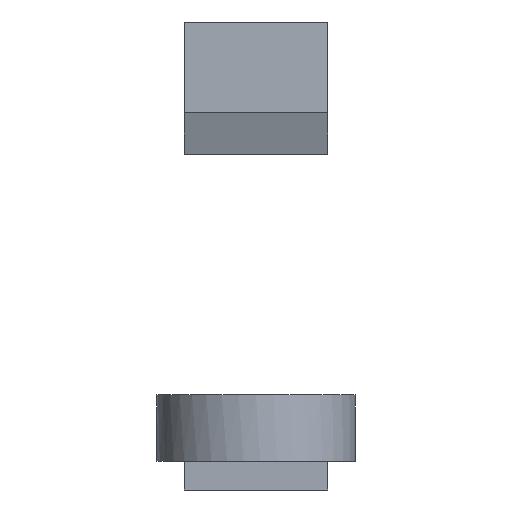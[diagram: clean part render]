
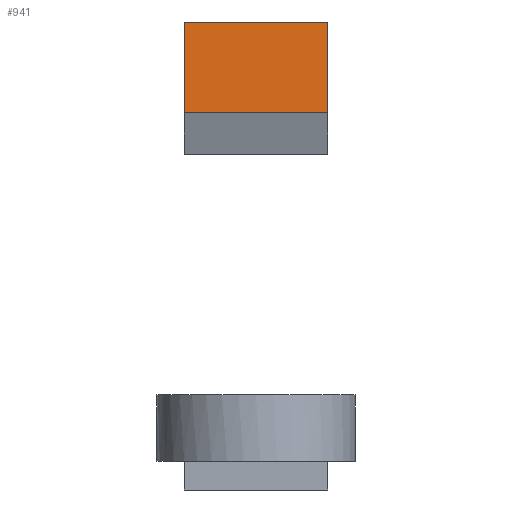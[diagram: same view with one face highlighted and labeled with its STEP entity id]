
A CAD part, front view. The second image highlights one B-rep face of the part: STEP entity #941.
In plain terms, the highlighted planar face has unit normal (0, -0.342, 0.94).
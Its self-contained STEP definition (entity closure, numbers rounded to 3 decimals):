
#627 = VERTEX_POINT('',#628);
#628 = CARTESIAN_POINT('',(-0.325,4.215,1.577));
#635 = PLANE('',#636);
#636 = AXIS2_PLACEMENT_3D('',#637,#638,#639);
#637 = CARTESIAN_POINT('',(-0.325,4.283,1.389));
#638 = DIRECTION('',(1.,0.,0.));
#639 = DIRECTION('',(0.,-0.342,0.94));
#647 = PLANE('',#648);
#648 = AXIS2_PLACEMENT_3D('',#649,#650,#651);
#649 = CARTESIAN_POINT('',(-0.325,4.283,1.389));
#650 = DIRECTION('',(0.,0.94,0.342));
#651 = DIRECTION('',(0.,-0.342,0.94));
#688 = VERTEX_POINT('',#689);
#689 = CARTESIAN_POINT('',(-0.325,5.343,1.987));
#703 = PLANE('',#704);
#704 = AXIS2_PLACEMENT_3D('',#705,#706,#707);
#705 = CARTESIAN_POINT('',(-0.325,5.411,1.799));
#706 = DIRECTION('',(0.,0.94,0.342));
#707 = DIRECTION('',(0.,-0.342,0.94));
#715 = EDGE_CURVE('',#627,#688,#716,.T.);
#716 = SURFACE_CURVE('',#717,(#721,#728),.PCURVE_S1.);
#717 = LINE('',#718,#719);
#718 = CARTESIAN_POINT('',(-0.325,4.215,1.577));
#719 = VECTOR('',#720,1.);
#720 = DIRECTION('',(0.,0.94,0.342));
#721 = PCURVE('',#635,#722);
#722 = DEFINITIONAL_REPRESENTATION('',(#723),#727);
#723 = LINE('',#724,#725);
#724 = CARTESIAN_POINT('',(0.2,0.));
#725 = VECTOR('',#726,1.);
#726 = DIRECTION('',(0.,-1.));
#727 = ( GEOMETRIC_REPRESENTATION_CONTEXT(2) 
PARAMETRIC_REPRESENTATION_CONTEXT() REPRESENTATION_CONTEXT('2D SPACE',''
  ) );
#728 = PCURVE('',#729,#734);
#729 = PLANE('',#730);
#730 = AXIS2_PLACEMENT_3D('',#731,#732,#733);
#731 = CARTESIAN_POINT('',(-0.325,4.215,1.577));
#732 = DIRECTION('',(0.,-0.342,0.94));
#733 = DIRECTION('',(1.,0.,0.));
#734 = DEFINITIONAL_REPRESENTATION('',(#735),#739);
#735 = LINE('',#736,#737);
#736 = CARTESIAN_POINT('',(0.,0.));
#737 = VECTOR('',#738,1.);
#738 = DIRECTION('',(0.,1.));
#739 = ( GEOMETRIC_REPRESENTATION_CONTEXT(2) 
PARAMETRIC_REPRESENTATION_CONTEXT() REPRESENTATION_CONTEXT('2D SPACE',''
  ) );
#747 = VERTEX_POINT('',#748);
#748 = CARTESIAN_POINT('',(0.325,4.215,1.577));
#755 = PLANE('',#756);
#756 = AXIS2_PLACEMENT_3D('',#757,#758,#759);
#757 = CARTESIAN_POINT('',(0.325,4.283,1.389));
#758 = DIRECTION('',(1.,0.,0.));
#759 = DIRECTION('',(0.,-0.342,0.94));
#798 = VERTEX_POINT('',#799);
#799 = CARTESIAN_POINT('',(0.325,5.343,1.987));
#820 = EDGE_CURVE('',#747,#798,#821,.T.);
#821 = SURFACE_CURVE('',#822,(#826,#833),.PCURVE_S1.);
#822 = LINE('',#823,#824);
#823 = CARTESIAN_POINT('',(0.325,4.215,1.577));
#824 = VECTOR('',#825,1.);
#825 = DIRECTION('',(0.,0.94,0.342));
#826 = PCURVE('',#755,#827);
#827 = DEFINITIONAL_REPRESENTATION('',(#828),#832);
#828 = LINE('',#829,#830);
#829 = CARTESIAN_POINT('',(0.2,0.));
#830 = VECTOR('',#831,1.);
#831 = DIRECTION('',(0.,-1.));
#832 = ( GEOMETRIC_REPRESENTATION_CONTEXT(2) 
PARAMETRIC_REPRESENTATION_CONTEXT() REPRESENTATION_CONTEXT('2D SPACE',''
  ) );
#833 = PCURVE('',#729,#834);
#834 = DEFINITIONAL_REPRESENTATION('',(#835),#839);
#835 = LINE('',#836,#837);
#836 = CARTESIAN_POINT('',(0.65,0.));
#837 = VECTOR('',#838,1.);
#838 = DIRECTION('',(0.,1.));
#839 = ( GEOMETRIC_REPRESENTATION_CONTEXT(2) 
PARAMETRIC_REPRESENTATION_CONTEXT() REPRESENTATION_CONTEXT('2D SPACE',''
  ) );
#866 = EDGE_CURVE('',#627,#747,#867,.T.);
#867 = SURFACE_CURVE('',#868,(#872,#879),.PCURVE_S1.);
#868 = LINE('',#869,#870);
#869 = CARTESIAN_POINT('',(-0.325,4.215,1.577));
#870 = VECTOR('',#871,1.);
#871 = DIRECTION('',(1.,0.,0.));
#872 = PCURVE('',#647,#873);
#873 = DEFINITIONAL_REPRESENTATION('',(#874),#878);
#874 = LINE('',#875,#876);
#875 = CARTESIAN_POINT('',(0.2,0.));
#876 = VECTOR('',#877,1.);
#877 = DIRECTION('',(0.,1.));
#878 = ( GEOMETRIC_REPRESENTATION_CONTEXT(2) 
PARAMETRIC_REPRESENTATION_CONTEXT() REPRESENTATION_CONTEXT('2D SPACE',''
  ) );
#879 = PCURVE('',#729,#880);
#880 = DEFINITIONAL_REPRESENTATION('',(#881),#885);
#881 = LINE('',#882,#883);
#882 = CARTESIAN_POINT('',(0.,0.));
#883 = VECTOR('',#884,1.);
#884 = DIRECTION('',(1.,0.));
#885 = ( GEOMETRIC_REPRESENTATION_CONTEXT(2) 
PARAMETRIC_REPRESENTATION_CONTEXT() REPRESENTATION_CONTEXT('2D SPACE',''
  ) );
#913 = EDGE_CURVE('',#688,#798,#914,.T.);
#914 = SURFACE_CURVE('',#915,(#919,#926),.PCURVE_S1.);
#915 = LINE('',#916,#917);
#916 = CARTESIAN_POINT('',(-0.325,5.343,1.987));
#917 = VECTOR('',#918,1.);
#918 = DIRECTION('',(1.,0.,0.));
#919 = PCURVE('',#703,#920);
#920 = DEFINITIONAL_REPRESENTATION('',(#921),#925);
#921 = LINE('',#922,#923);
#922 = CARTESIAN_POINT('',(0.2,0.));
#923 = VECTOR('',#924,1.);
#924 = DIRECTION('',(0.,1.));
#925 = ( GEOMETRIC_REPRESENTATION_CONTEXT(2) 
PARAMETRIC_REPRESENTATION_CONTEXT() REPRESENTATION_CONTEXT('2D SPACE',''
  ) );
#926 = PCURVE('',#729,#927);
#927 = DEFINITIONAL_REPRESENTATION('',(#928),#932);
#928 = LINE('',#929,#930);
#929 = CARTESIAN_POINT('',(0.,1.2));
#930 = VECTOR('',#931,1.);
#931 = DIRECTION('',(1.,0.));
#932 = ( GEOMETRIC_REPRESENTATION_CONTEXT(2) 
PARAMETRIC_REPRESENTATION_CONTEXT() REPRESENTATION_CONTEXT('2D SPACE',''
  ) );
#941 = ADVANCED_FACE('',(#942),#729,.T.);
#942 = FACE_BOUND('',#943,.T.);
#943 = EDGE_LOOP('',(#944,#945,#946,#947));
#944 = ORIENTED_EDGE('',*,*,#715,.F.);
#945 = ORIENTED_EDGE('',*,*,#866,.T.);
#946 = ORIENTED_EDGE('',*,*,#820,.T.);
#947 = ORIENTED_EDGE('',*,*,#913,.F.);
